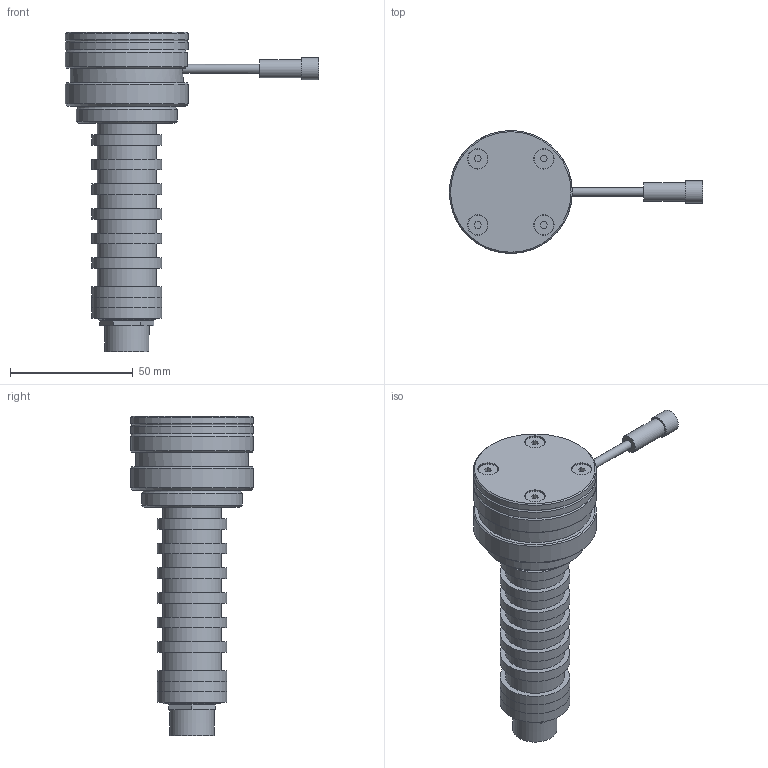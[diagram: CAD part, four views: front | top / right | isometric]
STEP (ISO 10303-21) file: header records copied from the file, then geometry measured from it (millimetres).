
FILE_DESCRIPTION(('STEP AP214'),'1');
FILE_NAME('FLM7-C.stp','2018-06-12T08:52:28',(' '),(' '),'Spatial InterOp 3D',' ',' ');
FILE_SCHEMA(('AUTOMOTIVE_DESIGN { 1 0 10303 214 1 1 1 1 }'));
Length unit declared in the file: millimetre
Products named in the file (1): 1
Bounding box: 103 x 50 x 129.72 mm (x, y, z)
Volume: 104235.5 mm3; surface area: 31523.6 mm2
Topology: 6 solids, 6 shells, 164 faces, 342 edges, 218 vertices
Faces by surface type: plane 82, cylinder 48, cone 24, torus 7, revolution 3
Full cylindrical faces by diameter (mm): 3.3 x4, 3.5 x1, 4 x4, 4.5 x4, 7.5 x1, 8.3 x4, 9 x1, 24 x8, 28.4 x11, 34 x1, 41 x1, 46 x1, 50 x3
Entity records: 5342 total; most frequent: CARTESIAN_POINT 821, DIRECTION 692, ORIENTED_EDGE 494, AXIS2_PLACEMENT_3D 290, EDGE_LOOP 275, EDGE_CURVE 247, FACE_OUTER_BOUND 217, VERTEX_POINT 200
